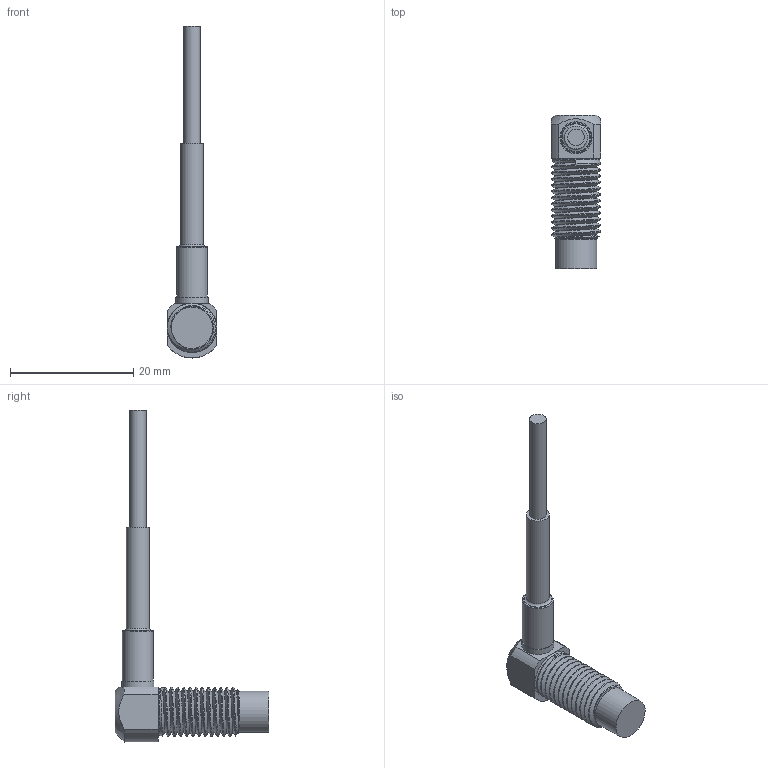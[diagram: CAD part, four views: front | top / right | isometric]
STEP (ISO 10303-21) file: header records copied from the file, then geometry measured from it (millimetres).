
FILE_DESCRIPTION( ( 'STEP AP214' ), '1' );
FILE_NAME( 'N:/Engineering/CAD_Solid/Wirbelstrom/Wirbelstromsensoren/T2/T2_G_KR.stp', '2011-04-12T09:11:29', ( ' ' ), ( ' ' ), 'XStep 1.0', ' ', ' ' );
FILE_SCHEMA( ( 'CONFIG_CONTROL_DESIGN) ( )' ) );
Length unit declared in the file: metre
Products named in the file (6): 1; 2; 3; 4; 5; 6
Bounding box: 8 x 24.99 x 53.9 mm (x, y, z)
Surface area: 1800.7 mm2 (no closed solid volume)
Topology: 0 solids, 35 shells, 35 faces, 133 edges, 121 vertices
Faces by surface type: plane 15, cylinder 10, cone 4, torus 3, bspline 3
Full cylindrical faces by diameter (mm): 2.7 x1, 3.7 x1, 5 x1, 5.2 x1, 6 x1, 6.7 x1
Entity records: 4924 total; most frequent: CARTESIAN_POINT 3605, DIRECTION 226, ORIENTED_EDGE 118, EDGE_CURVE 118, VERTEX_POINT 118, AXIS2_PLACEMENT_3D 97, CIRCLE 59, FACE_BOUND 53
